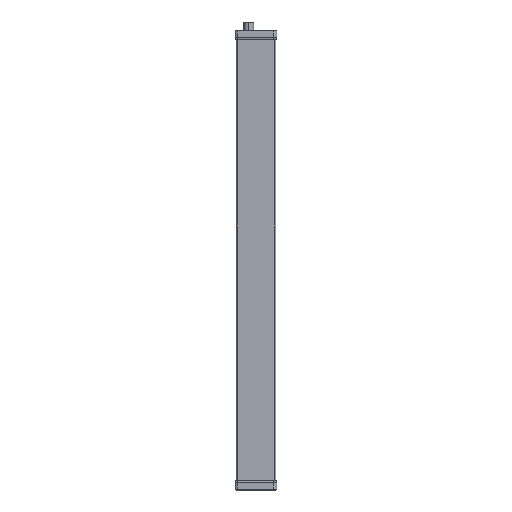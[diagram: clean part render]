
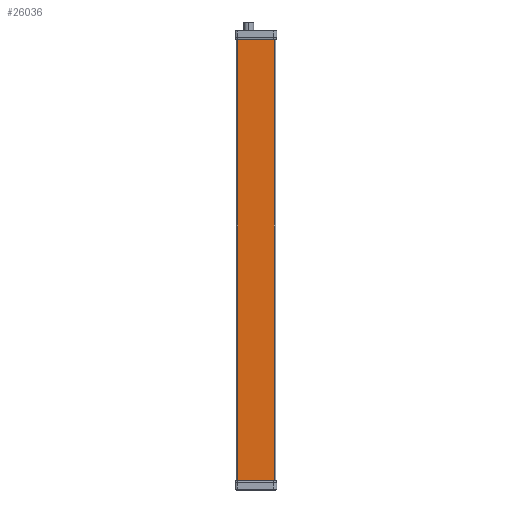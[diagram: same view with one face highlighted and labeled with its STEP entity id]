
A CAD part, left-side view. The second image highlights one B-rep face of the part: STEP entity #26036.
In plain terms, the highlighted planar face has unit normal (-1, 0, 0).
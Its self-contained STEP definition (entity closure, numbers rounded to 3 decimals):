
#1811 = FACE_OUTER_BOUND ( 'NONE', #26053, .T. ) ;
#1812 = CARTESIAN_POINT ( 'NONE',  ( -21.191, -17.562, 384. ) ) ;
#1848 = CARTESIAN_POINT ( 'NONE',  ( -21.191, 23.438, 384. ) ) ;
#1849 = DIRECTION ( 'NONE',  ( 0., -1., 0. ) ) ;
#1850 = DIRECTION ( 'NONE',  ( -1., 0., 0. ) ) ;
#1851 = CARTESIAN_POINT ( 'NONE',  ( -21.191, -50.274, 384. ) ) ;
#1852 = AXIS2_PLACEMENT_3D ( 'NONE', #1851, #1850, #1849 ) ;
#1853 = PLANE ( 'NONE',  #1852 ) ;
#1863 = DIRECTION ( 'NONE',  ( 0., 1., 0. ) ) ;
#1864 = VECTOR ( 'NONE', #1863, 1000. ) ;
#1865 = CARTESIAN_POINT ( 'NONE',  ( -21.191, -50.274, 384. ) ) ;
#1866 = LINE ( 'NONE', #1865, #1864 ) ;
#1867 = CARTESIAN_POINT ( 'NONE',  ( -21.191, -17.562, -120. ) ) ;
#1868 = DIRECTION ( 'NONE',  ( 0., 1., 0. ) ) ;
#1869 = VECTOR ( 'NONE', #1868, 1000. ) ;
#1870 = CARTESIAN_POINT ( 'NONE',  ( -21.191, -50.274, -120. ) ) ;
#1871 = LINE ( 'NONE', #1870, #1869 ) ;
#1881 = CARTESIAN_POINT ( 'NONE',  ( -21.191, 23.438, -120. ) ) ;
#2095 = DIRECTION ( 'NONE',  ( 0., 0., -1. ) ) ;
#2096 = VECTOR ( 'NONE', #2095, 1000. ) ;
#2097 = CARTESIAN_POINT ( 'NONE',  ( -21.191, 23.438, 384. ) ) ;
#2098 = LINE ( 'NONE', #2097, #2096 ) ;
#2134 = DIRECTION ( 'NONE',  ( 0., 0., 1. ) ) ;
#2135 = VECTOR ( 'NONE', #2134, 1000. ) ;
#2136 = CARTESIAN_POINT ( 'NONE',  ( -21.191, -17.562, 384. ) ) ;
#2138 = LINE ( 'NONE', #2136, #2135 ) ;
#26035 = VERTEX_POINT ( 'NONE', #1812 ) ;
#26036 = ADVANCED_FACE ( 'NONE', ( #1811 ), #1853, .T. ) ;
#26037 = ORIENTED_EDGE ( 'NONE', *, *, #26048, .F. ) ;
#26038 = VERTEX_POINT ( 'NONE', #1848 ) ;
#26043 = VERTEX_POINT ( 'NONE', #1881 ) ;
#26048 = EDGE_CURVE ( 'NONE', #26049, #26043, #1871, .T. ) ;
#26049 = VERTEX_POINT ( 'NONE', #1867 ) ;
#26050 = EDGE_CURVE ( 'NONE', #26035, #26038, #1866, .T. ) ;
#26051 = ORIENTED_EDGE ( 'NONE', *, *, #26109, .T. ) ;
#26053 = EDGE_LOOP ( 'NONE', ( #26037, #26055, #26058, #26051 ) ) ;
#26055 = ORIENTED_EDGE ( 'NONE', *, *, #26114, .T. ) ;
#26058 = ORIENTED_EDGE ( 'NONE', *, *, #26050, .T. ) ;
#26109 = EDGE_CURVE ( 'NONE', #26038, #26043, #2098, .T. ) ;
#26114 = EDGE_CURVE ( 'NONE', #26049, #26035, #2138, .T. ) ;
